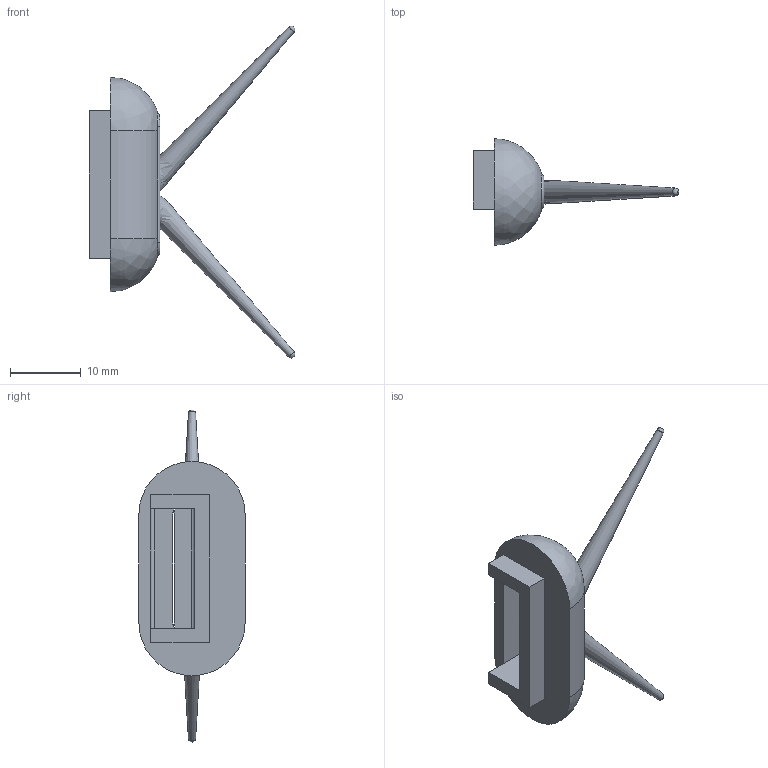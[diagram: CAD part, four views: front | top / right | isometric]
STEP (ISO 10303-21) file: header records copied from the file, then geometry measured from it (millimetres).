
FILE_DESCRIPTION(/* description */ (''),/* implementation_level */ '2;1');
FILE_NAME(/* name */ 'Lumi_Antenna.step',/* time_stamp */ '2025-06-14T16:00:31+05:30',/* author */ (''),/* organization */ (''),/* preprocessor_version */ 'ST-DEVELOPER v20.1',/* originating_system */ 'Autodesk Translation Framework v14.10.0.0',/* authorisation */ '');
FILE_SCHEMA (('AUTOMOTIVE_DESIGN { 1 0 10303 214 3 1 1 }'));
Length unit declared in the file: millimetre
Products named in the file (1): Antenna
Bounding box: 29.06 x 15 x 46.85 mm (x, y, z)
Volume: 2125.9 mm3; surface area: 2205.5 mm2
Topology: 2 solids, 2 shells, 39 faces, 98 edges, 62 vertices
Faces by surface type: plane 19, cylinder 10, bspline 4, cone 4, torus 2
Entity records: 1290 total; most frequent: CARTESIAN_POINT 308, DIRECTION 198, ORIENTED_EDGE 192, EDGE_CURVE 96, AXIS2_PLACEMENT_3D 71, VERTEX_POINT 62, LINE 56, VECTOR 56
